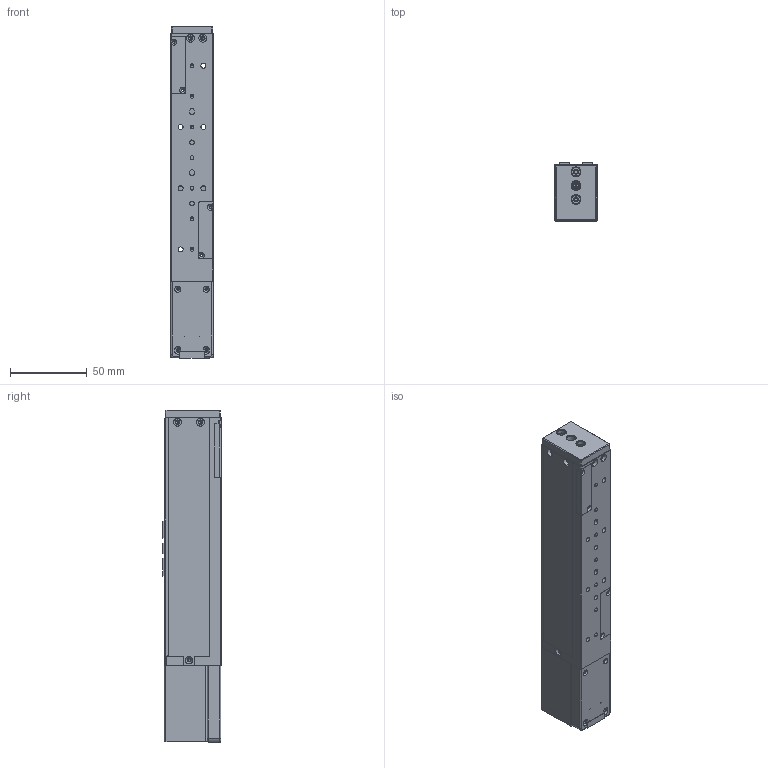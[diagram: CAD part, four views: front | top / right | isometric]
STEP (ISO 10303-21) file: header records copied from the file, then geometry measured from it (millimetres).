
FILE_DESCRIPTION (( 'STEP AP203' ), '1' );
FILE_NAME ('EM28A51-B02P100.STEP', '2023-10-28T04:57:13', ( '' ), ( '' ), 'SwSTEP 2.0', 'SolidWorks 2023', '' );
FILE_SCHEMA (( 'CONFIG_CONTROL_DESIGN' ));
Length unit declared in the file: millimetre
Products named in the file (15): 28-42后导光片; 28光电分体轴承座; EM28A51-B02P100; MGN9C滑块; 28-42前导光片; 28A50端子罩; 0602滚珠螺母; 28-100光电滑台盖板; 28-42端子线路板; 28轴承调节板; 28-100分体侧板; 28-100光电滑台分体基座; 28滑台安装座; MGN9C-146滑轨; 28A51-GZ0602-162电机
Assembly tree (15 placements, depth 2):
  EM28A51-B02P100
    28-100光电滑台分体基座
    MGN9C-146滑轨
    MGN9C滑块
    28滑台安装座
    0602滚珠螺母
    28A51-GZ0602-162电机
    28-42前导光片
    28-42后导光片
    28光电分体轴承座
    28轴承调节板
    28-100分体侧板  x2
    28-100光电滑台盖板
    28A50端子罩
    28-42端子线路板
Bounding box: 28 x 38 x 217 mm (x, y, z)
Volume: 133631.6 mm3; surface area: 83796.8 mm2
Topology: 15 solids, 15 shells, 1074 faces, 2956 edges, 1879 vertices
Faces by surface type: cylinder 552, plane 391, cone 114, torus 9, bspline 8
Entity records: 53409 total; most frequent: CARTESIAN_POINT 25625, ORIENTED_EDGE 5634, DIRECTION 5372, EDGE_CURVE 2817, AXIS2_PLACEMENT_3D 1899, VERTEX_POINT 1831, LINE 1574, VECTOR 1574
